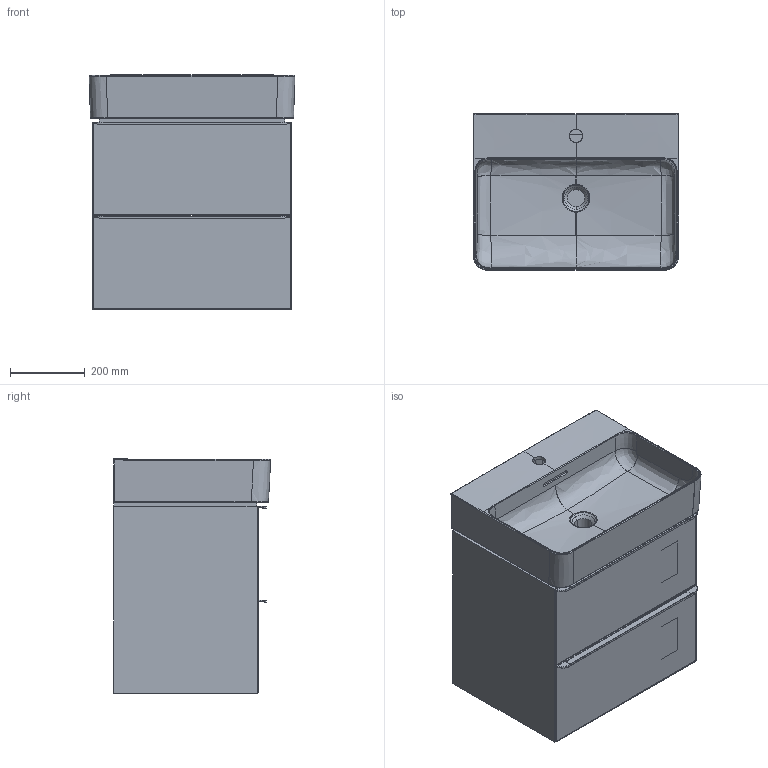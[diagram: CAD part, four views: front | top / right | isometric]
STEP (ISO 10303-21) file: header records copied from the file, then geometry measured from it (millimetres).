
FILE_DESCRIPTION(/* description */ (''),/* implementation_level */ '2;1');
FILE_NAME(/* name */ 'C:\Users\User33\Desktop\Space\3D01_410122.stp',/* time_stamp */ '2018-05-07T15:26:33+02:00',/* author */ ('User33'),/* organization */ (''),/* preprocessor_version */ 'ST-DEVELOPER v16.13',/* originating_system */ 'Autodesk Inventor 2018',/* authorisation */ '');
FILE_SCHEMA (('AUTOMOTIVE_DESIGN { 1 0 10303 214 3 1 1 }'));
Products named in the file (31): Base 534 x cer 810282; Parte3; Parte5; Parte7; Parte9; Parte11; Parte13; Parte15; Parte17; Parte19; Parte21; Parte23; Parte25; Parte27; Parte33; Parte35; Parte37; Parte39; Parte41; Parte43; Parte45; Parte47; Parte53; Parte55; Parte57; Parte59; Parte73; Parte75; Parte77; Parte79; Parte1
Assembly tree (30 placements, depth 2):
  Base 534 x cer 810282
    Parte3
    Parte5
    Parte7
    Parte9
    Parte11
    Parte13
    Parte15
    Parte17
    Parte19
    Parte21
    Parte23
    Parte25
    Parte27
    Parte33
    Parte35
    Parte37
    Parte39
    Parte41
    Parte43
    Parte45
    Parte47
    Parte53
    Parte55
    Parte57
    Parte59
    Parte73
    Parte75
    Parte77
    Parte79
    Parte1
Bounding box: 549.92 x 419.95 x 627.92 mm (x, y, z)
Volume: 20612070.6 mm3; surface area: 4960659.8 mm2
Topology: 29 solids, 499 shells, 1678 faces, 5431 edges, 4326 vertices
Faces by surface type: plane 933, cylinder 409, bspline 306, torus 16, sphere 8, cone 6
Full cylindrical faces by diameter (mm): 3 x2, 3.242 x12, 4 x12, 4.1 x4, 5.1 x4, 6 x8, 12.5 x4
Entity records: 130396 total; most frequent: CARTESIAN_POINT 82795, DIRECTION 8630, ORIENTED_EDGE 8528, EDGE_CURVE 5360, VERTEX_POINT 4314, LINE 2994, VECTOR 2994, AXIS2_PLACEMENT_3D 2818
